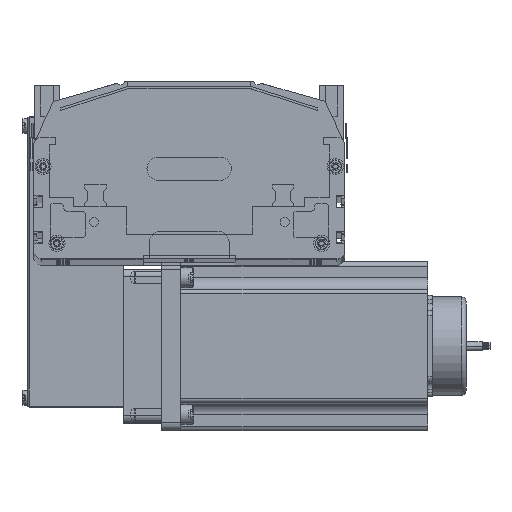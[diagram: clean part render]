
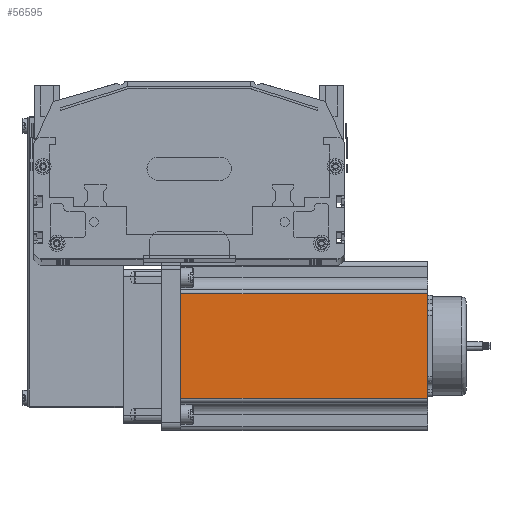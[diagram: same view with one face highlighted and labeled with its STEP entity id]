
A CAD part, top view. The second image highlights one B-rep face of the part: STEP entity #56595.
In plain terms, the highlighted planar face has unit normal (0, 0, 1) as drawn and (0, -1, 0) by its records, which use the part's own axes.
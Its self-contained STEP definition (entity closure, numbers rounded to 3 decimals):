
#34991 = CARTESIAN_POINT ( 'NONE',  ( 21.048, 0., 160.5 ) ) ;
#35008 = DIRECTION ( 'NONE',  ( 1., 0., 0. ) ) ;
#35009 = VECTOR ( 'NONE', #35008, 1000. ) ;
#35010 = CARTESIAN_POINT ( 'NONE',  ( 0., 0., 0. ) ) ;
#35011 = LINE ( 'NONE', #35010, #35009 ) ;
#35038 = CARTESIAN_POINT ( 'NONE',  ( 0., 0., 160.5 ) ) ;
#35081 = DIRECTION ( 'NONE',  ( 1., 0., 0. ) ) ;
#35082 = VECTOR ( 'NONE', #35081, 1000. ) ;
#35087 = LINE ( 'NONE', #35038, #35082 ) ;
#54657 = VECTOR ( 'NONE', #54706, 1000. ) ;
#54706 = DIRECTION ( 'NONE',  ( 0., 0., -1. ) ) ;
#54708 = CARTESIAN_POINT ( 'NONE',  ( 21.048, 0., 160.5 ) ) ;
#54709 = LINE ( 'NONE', #54708, #54657 ) ;
#55504 = DIRECTION ( 'NONE',  ( 0., 0., 1. ) ) ;
#55506 = VECTOR ( 'NONE', #55504, 1000. ) ;
#55508 = CARTESIAN_POINT ( 'NONE',  ( 88.952, 0., 160.5 ) ) ;
#55510 = CARTESIAN_POINT ( 'NONE',  ( 88.952, 0., 160.5 ) ) ;
#55513 = CARTESIAN_POINT ( 'NONE',  ( 21.048, 0., 0. ) ) ;
#55516 = LINE ( 'NONE', #55508, #55506 ) ;
#55609 = CARTESIAN_POINT ( 'NONE',  ( 0., 0., 160.5 ) ) ;
#55838 = PLANE ( 'NONE',  #55849 ) ;
#55849 = AXIS2_PLACEMENT_3D ( 'NONE', #55609, #55857, #56046 ) ;
#55857 = DIRECTION ( 'NONE',  ( 0., 1., 0. ) ) ;
#55859 = FACE_OUTER_BOUND ( 'NONE', #56612, .T. ) ;
#55999 = CARTESIAN_POINT ( 'NONE',  ( 88.952, 0., 0. ) ) ;
#56046 = DIRECTION ( 'NONE',  ( 0., 0., 1. ) ) ;
#56564 = ORIENTED_EDGE ( 'NONE', *, *, #56565, .T. ) ;
#56565 = EDGE_CURVE ( 'NONE', #56618, #56567, #55516, .T. ) ;
#56566 = VERTEX_POINT ( 'NONE', #55513 ) ;
#56567 = VERTEX_POINT ( 'NONE', #55510 ) ;
#56580 = ORIENTED_EDGE ( 'NONE', *, *, #56728, .F. ) ;
#56595 = ADVANCED_FACE ( 'NONE', ( #55859 ), #55838, .F. ) ;
#56612 = EDGE_LOOP ( 'NONE', ( #56630, #56564, #56580, #56655 ) ) ;
#56618 = VERTEX_POINT ( 'NONE', #55999 ) ;
#56630 = ORIENTED_EDGE ( 'NONE', *, *, #56687, .T. ) ;
#56655 = ORIENTED_EDGE ( 'NONE', *, *, #56657, .T. ) ;
#56657 = EDGE_CURVE ( 'NONE', #56661, #56566, #54709, .T. ) ;
#56661 = VERTEX_POINT ( 'NONE', #34991 ) ;
#56687 = EDGE_CURVE ( 'NONE', #56566, #56618, #35011, .T. ) ;
#56728 = EDGE_CURVE ( 'NONE', #56661, #56567, #35087, .T. ) ;
